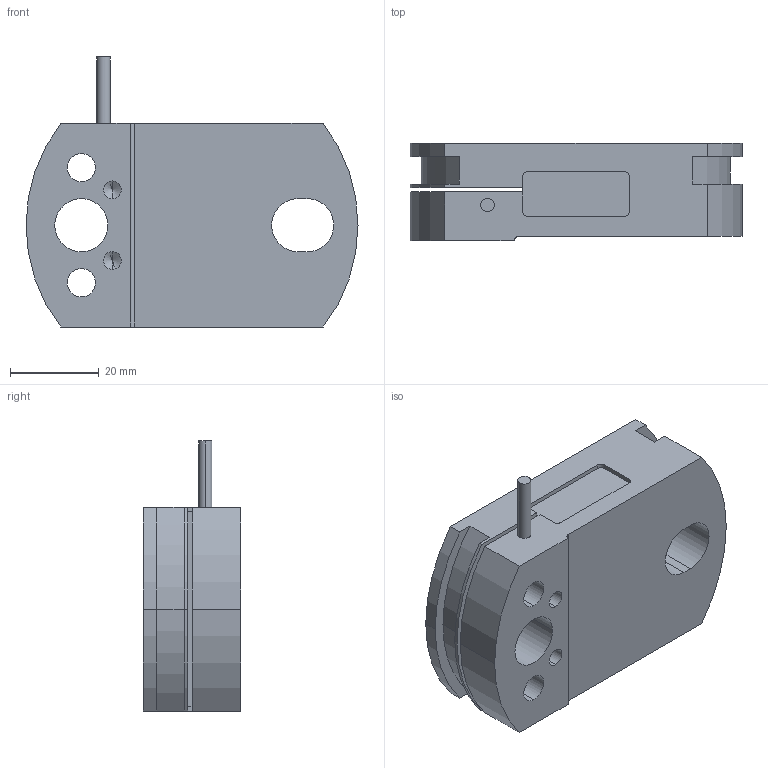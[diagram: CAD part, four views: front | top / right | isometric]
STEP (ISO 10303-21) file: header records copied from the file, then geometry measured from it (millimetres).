
FILE_DESCRIPTION (( 'STEP AP203' ), '1' );
FILE_NAME ('75X46X22-唑旋500kg-俋倛.STEP', '2026-06-11T01:25:09', ( '' ), ( '' ), 'SwSTEP 2.0', 'SolidWorks 2021', '' );
FILE_SCHEMA (( 'CONFIG_CONTROL_DESIGN' ));
Length unit declared in the file: millimetre
Products named in the file (1): 75X46X22-唑旋500kg-俋倛
Bounding box: 75 x 22 x 61 mm (x, y, z)
Volume: 56703.3 mm3; surface area: 16199.7 mm2
Topology: 1 solids, 1 shells, 92 faces, 247 edges, 150 vertices
Faces by surface type: cylinder 49, plane 27, cone 16
Entity records: 2882 total; most frequent: DIRECTION 515, CARTESIAN_POINT 474, ORIENTED_EDGE 462, EDGE_CURVE 231, AXIS2_PLACEMENT_3D 191, VERTEX_POINT 150, VECTOR 133, LINE 133
